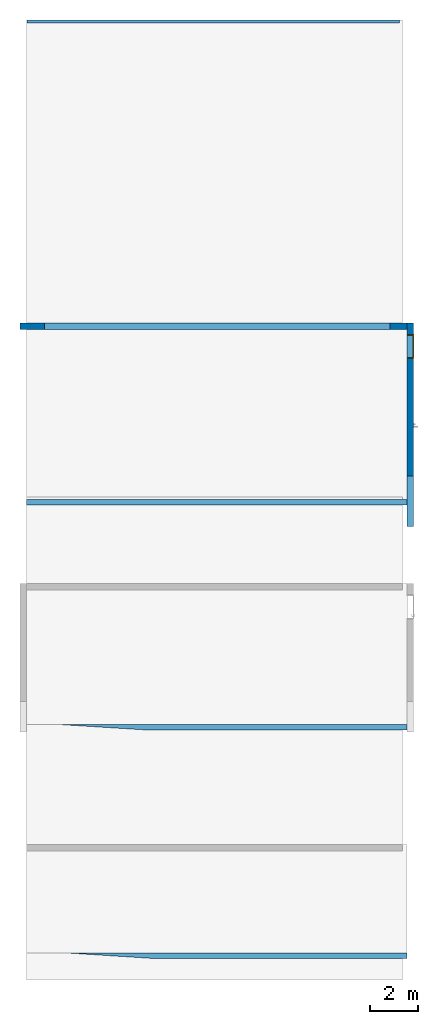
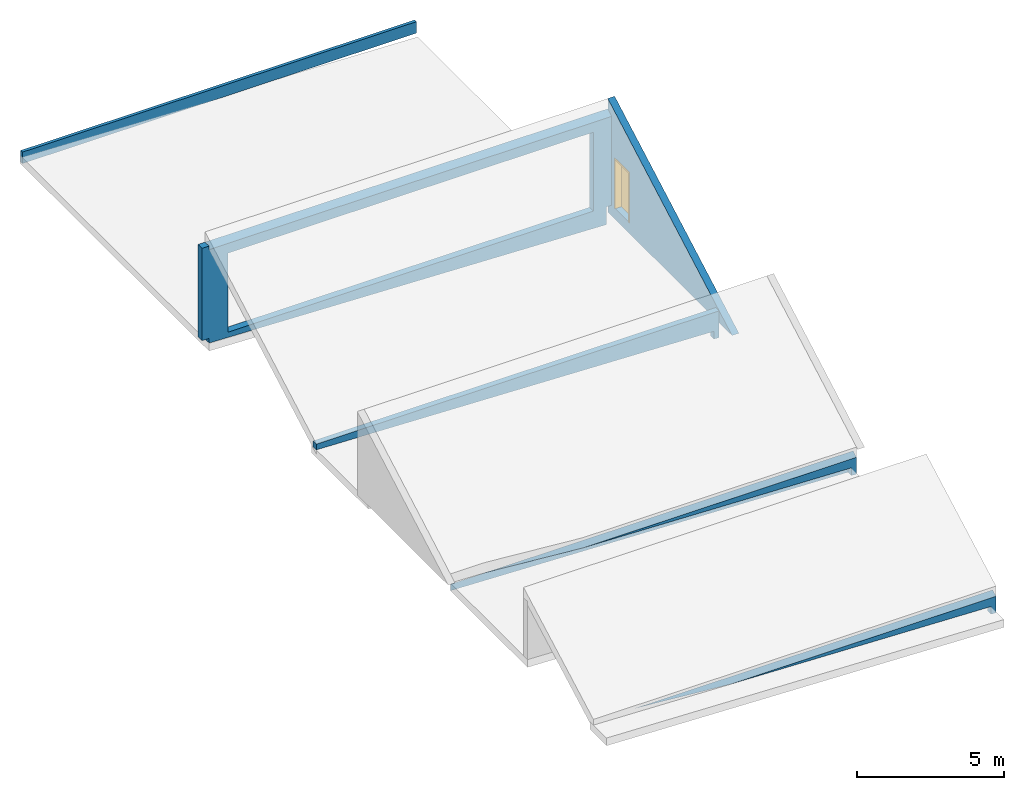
# One storey, part 2 of 2: 6 walls, 1 door, 4 openings.
"""IFC2X3 building model written with IfcOpenShell, lengths in centimetres."""

from ifc_helpers import new_model, entity, si_unit, converted_unit, derived_unit, direction, frame, frame_2d, origin, place, context, subcontext, project, spatial, polyline, rectangle, outline, extrude, clip, halfspace, bounded_halfspace, faceted_brep, source, transform, mapped, material, material_list, layer, layer_set, layer_usage, type_object, type_shapes, element, fill, save


model = new_model("IFC2X3")

# Units and contexts
model_context = context("Model", 3, precision=0.001, world=origin(), true_north=direction((6.12303176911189e-17, 1.0)))
body_context = subcontext(model_context, "Body", "Model", "MODEL_VIEW")
ifc_project = project(units=[si_unit("LENGTHUNIT", "METRE", prefix="CENTI"), si_unit("AREAUNIT", "SQUARE_METRE"), si_unit("VOLUMEUNIT", "CUBIC_METRE"), converted_unit("PLANEANGLEUNIT", "DEGREE", entity("IfcRatioMeasure", 0.0174532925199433), si_unit("PLANEANGLEUNIT", "RADIAN"), dimensions=[0, 0, 0, 0, 0, 0, 0]), si_unit("MASSUNIT", "GRAM", prefix="KILO"), si_unit("TIMEUNIT", "SECOND"), si_unit("FREQUENCYUNIT", "HERTZ"), si_unit("THERMODYNAMICTEMPERATUREUNIT", "DEGREE_CELSIUS"), derived_unit("THERMALTRANSMITTANCEUNIT", [(si_unit("MASSUNIT", "GRAM", prefix="KILO"), 1), (si_unit("THERMODYNAMICTEMPERATUREUNIT", "KELVIN"), -1), (si_unit("TIMEUNIT", "SECOND"), -3)]), derived_unit("VOLUMETRICFLOWRATEUNIT", [(si_unit("LENGTHUNIT", "METRE"), 3), (si_unit("TIMEUNIT", "SECOND"), -1)]), si_unit("ELECTRICCURRENTUNIT", "AMPERE"), si_unit("ELECTRICVOLTAGEUNIT", "VOLT"), si_unit("POWERUNIT", "WATT"), si_unit("FORCEUNIT", "NEWTON", prefix="KILO"), si_unit("ILLUMINANCEUNIT", "LUX"), si_unit("LUMINOUSFLUXUNIT", "LUMEN"), si_unit("LUMINOUSINTENSITYUNIT", "CANDELA"), derived_unit("USERDEFINED", [(si_unit("MASSUNIT", "GRAM", prefix="KILO"), -1), (si_unit("LENGTHUNIT", "METRE"), -2), (si_unit("TIMEUNIT", "SECOND"), 3), (si_unit("LUMINOUSFLUXUNIT", "LUMEN"), 1)]), derived_unit("LINEARVELOCITYUNIT", [(si_unit("LENGTHUNIT", "METRE"), 1), (si_unit("TIMEUNIT", "SECOND"), -1)]), si_unit("PRESSUREUNIT", "PASCAL"), derived_unit("USERDEFINED", [(si_unit("LENGTHUNIT", "METRE"), -2), (si_unit("MASSUNIT", "GRAM", prefix="KILO"), 1), (si_unit("TIMEUNIT", "SECOND"), -2)])], contexts=[model_context])

# Site, building, storey
site_placement = place(None, frame((8.62739174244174, -249.285249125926, 0.0)))
site = spatial("IfcSite", under=ifc_project, at=site_placement, Name="Default", CompositionType="ELEMENT")
building_placement = place(site_placement, origin())
building = spatial("IfcBuilding", under=site, at=building_placement, CompositionType="ELEMENT")
storey_placement = place(building_placement, frame((0.0, 0.0, 855.0)))
storey = spatial("IfcBuildingStorey", under=building, at=storey_placement, Name="Acrotère EXT2", CompositionType="ELEMENT", Elevation=855.0)

# Wall, opening, door
ifc_material_1 = material(Name="Tôle/Doublage(PROJET)")
ifc_layer_1 = layer(ifc_material_1, 4.0)
ifc_material_2 = material(Name="Laine minérale")
ifc_layer_2 = layer(ifc_material_2, 22.0)
ifc_layer_3 = layer(ifc_material_1, 1.0)
ifc_layer_set_1 = layer_set([ifc_layer_1, ifc_layer_2, ifc_layer_3], Name="Mur de base:MET PROJET 4 + ISO 23 + MET 1")
ifc_layer_usage_1 = layer_usage(ifc_layer_set_1, "AXIS2", "POSITIVE", -13.5)
wall_type_1 = type_object("IfcWallType", Name="Mur de base:MET PROJET 4 + ISO 23 + MET 1", PredefinedType="NOTDEFINED")
wall_1_placement = place(storey_placement, frame((3067.40482780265, 5463.01149388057, -45.0654807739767), z_axis=(0.0, 0.0, 1.0), x_axis=(0.0, 1.0, 0.0)))
wall_1 = element("IfcWallStandardCase", 1, at=wall_1_placement, inside=storey, type_object=wall_type_1, material=ifc_layer_usage_1, Name="Mur de base:MET PROJET 4 + ISO 23 + MET 1", ObjectType="Mur de base:MET PROJET 4 + ISO 23 + MET 1", context=body_context, shape_type="Clipping", body=[
    clip(extrude(rectangle(XDim=843.465927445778, YDim=26.9999999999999, at=frame_2d((421.732963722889, -1.78523862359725e-13), x_axis=(-1.0, 0.0))), origin(), (0.0, 0.0, 1.0), 470.065480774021), halfspace(frame((0.0, -13.5000000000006, 0.0), z_axis=(-0.486808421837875, 0.0, 0.8735087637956), x_axis=(0.0, 1.0, 0.0)), False)),
])
opening_1_placement = place(wall_1_placement, frame((796.712741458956, 13.5, 45.0654807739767)))
opening_1 = element("IfcOpeningElement", 2, at=opening_1_placement, cuts=wall_1, Name="Simple(R)_bois_mu:93 x 204 cm:1", ObjectType="Opening", context=body_context, shape_type="SweptSolid", body=[
    extrude(rectangle(XDim=207.499999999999, YDim=99.9999999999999, at=frame_2d((103.749999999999, 50.0), x_axis=(1.0, 0.0))), frame((0.0, 0.0, 0.0), z_axis=(0.0, -1.0, 0.0), x_axis=(0.0, 0.0, 1.0)), (0.0, 0.0, 1.0), 27.0),
])
ifc_material_3 = material(Name="Porte - Poignée")
ifc_material_4 = material(Name="Porte - Cadre")
ifc_material_5 = material(Name="Porte - Panneau")
ifc_material_list_1 = material_list([ifc_material_3, ifc_material_4, ifc_material_5])
ifc_material_list_2 = material_list([ifc_material_3, ifc_material_4, ifc_material_5])
door_style = type_object("IfcDoorStyle", Name="93 x 204 cm", ConstructionType="NOTDEFINED", OperationType="SINGLE_SWING_RIGHT", ParameterTakesPrecedence=False, Sizeable=False, material=ifc_material_list_2)
shared_shape = source(origin(), body_context, "Body", "Brep", [
    faceted_brep([(8.79747013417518, 3.69999999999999, 100.778044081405), (8.3999999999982, 3.69999999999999, 100.699999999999), (8.39999999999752, 3.69999999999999, 99.2999999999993), (8.79747013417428, 3.69999999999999, 99.2219559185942), (9.20252986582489, 3.69999999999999, 99.2219559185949), (9.60000000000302, 3.69999999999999, 99.3000000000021), (9.60000000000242, 3.69999999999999, 100.699999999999), (9.2025298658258, 3.69999999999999, 100.778044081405), (9.60000000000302, 5.94852045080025, 99.3000000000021), (9.60000000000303, 5.94852045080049, 100.699999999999), (9.20252986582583, 6.1131579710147, 100.778044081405), (10.5838906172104, 7.49451872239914, 100.778044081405), (10.4161093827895, 7.89957845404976, 100.778044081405), (8.79747013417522, 6.2809392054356, 100.778044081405), (19.5684749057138, 6.84673156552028, 100.778044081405), (19.8548953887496, 7.13315204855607, 100.778044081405), (19.0884689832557, 7.89957845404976, 100.778044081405), (18.9206877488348, 7.49451872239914, 100.778044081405), (8.39999999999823, 6.44557672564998, 100.699999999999), (8.3999999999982, 6.44557672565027, 99.2999999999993), (8.79747013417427, 6.28093920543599, 99.2219559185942), (10.4161093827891, 7.8995784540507, 99.2219559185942), (10.58389061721, 7.49451872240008, 99.2219559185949), (9.20252986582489, 6.11315797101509, 99.2219559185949), (19.8548953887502, 7.1331520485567, 99.2219559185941), (19.5684749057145, 6.84673156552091, 99.2219559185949), (18.9206877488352, 7.49451872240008, 99.2219559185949), (19.088468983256, 7.8995784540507, 99.2219559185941), (10.7485281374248, 7.09704858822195, 99.3000000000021), (10.748528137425, 7.09704858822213, 100.699999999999), (10.2514718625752, 8.29704858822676, 100.699999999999), (10.2514718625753, 8.29704858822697, 99.2999999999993), (14.7522904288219, 7.09704858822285, 99.3000000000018), (18.7560502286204, 7.09704858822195, 99.3000000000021), (18.7560502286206, 7.09704858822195, 100.699999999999), (14.7522891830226, 7.09704858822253, 100.699999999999), (14.7522891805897, 7.71249275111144, 100.787811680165), (19.25310650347, 8.29704858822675, 100.699999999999), (15.2600577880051, 8.29704858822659, 100.699999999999), (19.2531065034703, 8.29704858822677, 99.2999999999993), (14.2445206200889, 8.29704858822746, 99.2999999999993), (14.7522892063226, 7.71249274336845, 99.2121883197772), (19.2874210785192, 6.56567773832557, 99.3000000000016), (20.1359492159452, 7.41420587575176, 99.2999999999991), (20.135949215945, 7.4142058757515, 100.699999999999), (19.287421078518, 6.56567773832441, 100.699999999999)], [[[0, 1, 2, 3, 4, 5, 6, 7]], [[6, 5, 8, 9]], [[9, 10, 7, 6]], [[10, 11, 12, 13, 0, 7]], [[14, 15, 16, 17]], [[13, 18, 1, 0]], [[2, 1, 18, 19]], [[19, 20, 3, 2]], [[20, 21, 22, 23, 4, 3]], [[24, 25, 26, 27]], [[23, 8, 5, 4]], [[9, 8, 28, 29]], [[29, 11, 10, 9]], [[12, 30, 18, 13]], [[19, 18, 30, 31]], [[31, 21, 20, 19]], [[22, 28, 8, 23]], [[29, 28, 32, 33, 34, 35]], [[11, 35, 36]], [[16, 37, 38]], [[30, 12, 38]], [[38, 12, 36]], [[36, 35, 17]], [[17, 16, 36]], [[35, 11, 29]], [[34, 17, 35]], [[11, 36, 12]], [[38, 36, 16]], [[31, 30, 38, 37, 39, 40]], [[40, 41, 21]], [[41, 40, 27]], [[21, 31, 40]], [[39, 27, 40]], [[41, 32, 22]], [[22, 21, 41]], [[26, 32, 41]], [[28, 22, 32]], [[32, 26, 33]], [[26, 41, 27]], [[42, 25, 24, 43, 44, 15, 14, 45]], [[34, 33, 42, 45]], [[45, 14, 17, 34]], [[15, 44, 37, 16]], [[39, 37, 44, 43]], [[43, 24, 27, 39]], [[25, 42, 33, 26]]]),
    faceted_brep([(8.79747013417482, -1.30000000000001, 100.778044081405), (9.20252986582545, -1.30000000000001, 100.778044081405), (9.6000000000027, -1.30000000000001, 100.699999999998), (9.60000000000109, -1.30000000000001, 99.3000000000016), (9.20252986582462, -1.30000000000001, 99.2219559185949), (8.79747013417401, -1.30000000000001, 99.2219559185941), (8.39999999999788, -1.30000000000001, 99.2999999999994), (8.39999999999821, -1.30000000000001, 100.699999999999), (8.39999999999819, -4.06509507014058, 100.699999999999), (8.7974701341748, -3.90045754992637, 100.778044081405), (10.402358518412, -5.50534593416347, 100.778044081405), (10.5701397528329, -5.10028620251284, 100.778044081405), (9.20252986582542, -3.73267631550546, 100.778044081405), (19.852181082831, -4.73891952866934, 100.778044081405), (19.5657605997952, -4.4524990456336, 100.778044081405), (18.9179734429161, -5.10028620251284, 100.778044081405), (19.085754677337, -5.50534593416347, 100.778044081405), (9.60000000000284, -3.56803879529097, 100.699999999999), (9.6000000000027, -3.56803879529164, 99.3000000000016), (9.20252986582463, -3.7326763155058, 99.2219559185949), (10.5701397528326, -5.10028620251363, 99.2219559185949), (10.4023585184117, -5.50534593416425, 99.2219559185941), (8.79747013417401, -3.9004575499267, 99.2219559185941), (19.5657605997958, -4.45249904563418, 99.2219559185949), (19.8521810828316, -4.73891952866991, 99.2219559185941), (19.0857546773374, -5.50534593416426, 99.2219559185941), (18.9179734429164, -5.10028620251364, 99.2219559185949), (8.39999999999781, -4.06509507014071, 99.2999999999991), (10.2377209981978, -5.90281606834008, 100.699999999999), (10.7347772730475, -4.70281606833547, 100.699999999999), (10.7347772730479, -4.70281606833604, 99.3000000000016), (10.2377209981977, -5.90281606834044, 99.2999999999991), (14.2307697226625, -5.90281606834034, 100.699999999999), (14.7440566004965, -5.31828027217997, 100.787811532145), (19.2503921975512, -5.90281606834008, 100.699999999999), (14.7440565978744, -4.70281606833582, 100.699999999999), (18.7533359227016, -4.70281606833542, 100.699999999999), (18.7533359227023, -4.70281606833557, 99.3000000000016), (14.7440563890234, -4.70281606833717, 99.3000000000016), (14.744056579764, -5.31828027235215, 99.2121884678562), (19.2503921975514, -5.90281606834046, 99.2999999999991), (15.2573433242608, -5.90281606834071, 99.2999999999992), (19.2847067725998, -4.1714452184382, 100.699999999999), (20.1332349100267, -5.01997335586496, 100.699999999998), (20.1332349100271, -5.01997335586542, 99.2999999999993), (19.2847067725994, -4.17144521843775, 99.3000000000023)], [[[0, 1, 2, 3, 4, 5, 6, 7]], [[8, 9, 0, 7]], [[9, 10, 11, 12, 1, 0]], [[13, 14, 15, 16]], [[12, 17, 2, 1]], [[3, 2, 17, 18]], [[18, 19, 4, 3]], [[19, 20, 21, 22, 5, 4]], [[23, 24, 25, 26]], [[22, 27, 6, 5]], [[7, 6, 27, 8]], [[28, 10, 9, 8]], [[11, 29, 17, 12]], [[18, 17, 29, 30]], [[30, 20, 19, 18]], [[21, 31, 27, 22]], [[8, 27, 31, 28]], [[32, 33, 10]], [[33, 32, 16]], [[10, 28, 32]], [[34, 16, 32]], [[33, 35, 11]], [[11, 10, 33]], [[15, 35, 33]], [[29, 11, 35]], [[35, 15, 36]], [[15, 33, 16]], [[30, 29, 35, 36, 37, 38]], [[20, 38, 39]], [[25, 40, 41]], [[31, 21, 41]], [[41, 21, 39]], [[39, 38, 26]], [[26, 25, 39]], [[38, 20, 30]], [[37, 26, 38]], [[20, 39, 21]], [[41, 39, 25]], [[28, 31, 41, 40, 34, 32]], [[42, 14, 13, 43, 44, 24, 23, 45]], [[43, 13, 16, 34]], [[14, 42, 36, 15]], [[37, 36, 42, 45]], [[45, 23, 26, 37]], [[24, 44, 40, 25]], [[34, 40, 44, 43]]]),
    faceted_brep([(10.03527618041, 3.19999999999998, 86.6003983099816), (11.0, 3.19999999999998, 87.0), (11.0, 3.19999999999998, 108.0), (10.03527618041, 3.19999999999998, 108.399601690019), (9.0, 3.19999999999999, 108.535898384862), (7.96472381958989, 3.19999999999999, 108.399601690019), (7.0, 3.19999999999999, 108.0), (7.0, 3.19999999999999, 87.0), (7.96472381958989, 3.19999999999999, 86.6003983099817), (9.0, 3.19999999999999, 86.4641016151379), (10.03527618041, 3.69999999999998, 108.399601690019), (11.0, 3.69999999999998, 108.0), (11.0, 3.69999999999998, 87.0), (10.03527618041, 3.69999999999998, 86.6003983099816), (9.0, 3.69999999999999, 86.4641016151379), (7.96472381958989, 3.69999999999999, 86.6003983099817), (7.0, 3.69999999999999, 87.0), (7.0, 3.69999999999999, 108.0), (7.96472381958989, 3.69999999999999, 108.399601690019), (9.0, 3.69999999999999, 108.535898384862)], [[[0, 1, 2, 3, 4, 5, 6, 7, 8, 9]], [[10, 11, 12, 13, 14, 15, 16, 17, 18, 19]], [[11, 10, 3, 2]], [[3, 10, 19, 4]], [[19, 18, 5, 4]], [[18, 17, 6, 5]], [[7, 6, 17, 16]], [[16, 15, 8, 7]], [[8, 15, 14, 9]], [[14, 13, 0, 9]], [[13, 12, 1, 0]], [[2, 1, 12, 11]]]),
    faceted_brep([(10.03527618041, -1.30000000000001, 86.6003983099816), (11.0, -1.30000000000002, 87.0), (11.0, -1.30000000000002, 108.0), (10.03527618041, -1.30000000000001, 108.399601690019), (9.0, -1.30000000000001, 108.535898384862), (7.9647238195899, -1.30000000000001, 108.399601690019), (7.0, -1.3, 108.0), (7.0, -1.3, 87.0), (7.96472381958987, -1.30000000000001, 86.6003983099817), (9.0, -1.30000000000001, 86.4641016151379), (10.03527618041, -0.800000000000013, 108.399601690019), (11.0, -0.800000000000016, 108.0), (11.0, -0.800000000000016, 87.0), (10.03527618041, -0.800000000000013, 86.6003983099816), (9.0, -0.800000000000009, 86.4641016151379), (7.96472381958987, -0.800000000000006, 86.6003983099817), (7.0, -0.800000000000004, 87.0), (7.0, -0.800000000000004, 108.0), (7.9647238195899, -0.800000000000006, 108.399601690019), (9.0, -0.800000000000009, 108.535898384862)], [[[0, 1, 2, 3, 4, 5, 6, 7, 8, 9]], [[10, 11, 12, 13, 14, 15, 16, 17, 18, 19]], [[16, 15, 8, 7]], [[8, 15, 14, 9]], [[14, 13, 0, 9]], [[13, 12, 1, 0]], [[2, 1, 12, 11]], [[11, 10, 3, 2]], [[3, 10, 19, 4]], [[19, 18, 5, 4]], [[18, 17, 6, 5]], [[7, 6, 17, 16]]]),
    faceted_brep([(0.0, 0.0, 0.0), (0.0, 27.0, 0.0), (-1.0, 27.0, 0.0), (-1.0, 27.8000000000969, 0.0), (4.49999999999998, 27.8000000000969, 0.0), (4.49999999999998, 3.20000000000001, 0.0), (3.49999999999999, 3.20000000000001, 0.0), (3.49999999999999, -0.799999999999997, 0.0), (-1.0, -0.799999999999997, 0.0), (-1.0, 0.0, 0.0), (0.0, 0.0, 207.499999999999), (0.0, 27.0, 207.499999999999), (100.0, 27.0, 207.499999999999), (100.0, 27.0, 0.0), (101.0, 27.0, 0.0), (101.0, 27.0, 208.499999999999), (-1.0, 27.0, 208.499999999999), (-1.0, 27.8000000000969, 208.499999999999), (101.0, 27.8000000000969, 208.499999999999), (101.0, 27.8000000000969, 0.0), (95.5, 27.8000000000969, 0.0), (95.5, 27.8000000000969, 203.0), (4.49999999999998, 27.8000000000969, 203.0), (4.49999999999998, 3.20000000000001, 203.0), (95.5, 3.20000000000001, 203.0), (95.5, 3.20000000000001, 0.0), (96.5, 3.20000000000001, 0.0), (96.5, 3.20000000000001, 204.0), (3.49999999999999, 3.20000000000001, 204.0), (3.49999999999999, -0.799999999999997, 204.0), (96.5, -0.799999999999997, 204.0), (96.5, -0.799999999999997, 0.0), (101.0, -0.799999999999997, 0.0), (101.0, -0.799999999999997, 208.499999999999), (-1.0, -0.799999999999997, 208.499999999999), (-1.0, 0.0, 208.499999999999), (101.0, 0.0, 208.499999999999), (101.0, 0.0, 0.0), (100.0, 0.0, 0.0), (100.0, 0.0, 207.499999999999)], [[[0, 1, 2, 3, 4, 5, 6, 7, 8, 9]], [[1, 0, 10, 11]], [[2, 1, 11, 12, 13, 14, 15, 16]], [[3, 2, 16, 17]], [[4, 3, 17, 18, 19, 20, 21, 22]], [[5, 4, 22, 23]], [[6, 5, 23, 24, 25, 26, 27, 28]], [[7, 6, 28, 29]], [[8, 7, 29, 30, 31, 32, 33, 34]], [[9, 8, 34, 35]], [[0, 9, 35, 36, 37, 38, 39, 10]], [[12, 39, 38, 13]], [[38, 37, 32, 31, 26, 25, 20, 19, 14, 13]], [[18, 15, 14, 19]], [[24, 21, 20, 25]], [[30, 27, 26, 31]], [[36, 33, 32, 37]], [[11, 10, 39, 12]], [[17, 16, 15, 18]], [[23, 22, 21, 24]], [[29, 28, 27, 30]], [[35, 34, 33, 36]]]),
    faceted_brep([(3.49999999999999, -0.799999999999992, 204.0), (3.49999999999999, -0.799999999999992, 0.0), (96.5, -0.799999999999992, 0.0), (96.5, -0.799999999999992, 204.0), (3.49999999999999, 3.20000000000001, 204.0), (96.5, 3.20000000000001, 204.0), (96.5, 3.20000000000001, 0.0), (3.49999999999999, 3.20000000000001, 0.0)], [[[0, 1, 2, 3]], [[4, 5, 6, 7]], [[1, 0, 4, 7]], [[2, 1, 7, 6]], [[3, 2, 6, 5]], [[0, 3, 5, 4]]]),
])
type_shapes(door_style, [shared_shape])
door_placement = place(opening_1_placement, frame((-100.0, -27.0, 0.0)))
door = element("IfcDoor", 3, at=door_placement, inside=storey, type_object=door_style, material=ifc_material_list_1, Name="Simple(R)_bois_mu:93 x 204 cm", ObjectType="93 x 204 cm", OverallHeight=207.499999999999, OverallWidth=99.9999999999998, context=body_context, shape_type="MappedRepresentation", body=[
    mapped(shared_shape, transform((0.0, 0.0, 0.0), scale=1.0)),
])
fill(opening_1, door)

# Wall, openings
ifc_layer_usage_2 = layer_usage(ifc_layer_set_1, "AXIS2", "NEGATIVE", 13.5)
wall_2_placement = place(storey_placement, frame((1449.9048277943, 6292.97742132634, -73.7177502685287)))
wall_2 = element("IfcWallStandardCase", 4, at=wall_2_placement, inside=storey, type_object=wall_type_1, material=ifc_layer_usage_2, Name="Mur de base:MET PROJET 4 + ISO 23 + MET 1", ObjectType="Mur de base:MET PROJET 4 + ISO 23 + MET 1", context=body_context, shape_type="Clipping", body=[
    clip(clip(clip(clip(clip(clip(clip(clip(extrude(rectangle(XDim=1631.00000000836, YDim=27.0000000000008, at=frame_2d((815.500000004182, 1.02140518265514e-13), x_axis=(-1.0, 0.0))), origin(), (0.0, 0.0, 1.0), 456.35984668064), bounded_halfspace(frame((1584.0, -12.4999999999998, 73.7177502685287)), True, frame((1584.0, -12.4999999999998, 73.7177502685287)), polyline([(0.0, 0.0), (47.0, 0.0), (47.0, 26.0), (0.0, 26.0), (0.0, 0.0)]))), bounded_halfspace(frame((0.0, -12.4999999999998, 73.7243096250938)), True, frame((0.0, -12.4999999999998, 73.7243096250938)), polyline([(0.0, 0.0), (27.0, 0.0), (27.0, 26.0), (0.0, 26.0), (0.0, 0.0)]))), bounded_halfspace(frame((1631.0, -13.4999999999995, 73.7177502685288), z_axis=(0.0, 0.0, -1.0), x_axis=(0.0, 1.0, 0.0)), False, frame((1631.0, -13.4999999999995, 73.7177502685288)), polyline([(0.0, 0.0), (0.0, 1.0), (-47.0, 1.0), (-47.0, 0.0), (0.0, 0.0)]))), bounded_halfspace(frame((27.0, -13.4999999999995, 73.7243096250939), z_axis=(0.0, 0.0, -1.0), x_axis=(0.0, 1.0, 0.0)), False, frame((27.0, -13.4999999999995, 73.7243096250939)), polyline([(0.0, 0.0), (0.0, 1.0), (-27.0, 1.0), (-27.0, 0.0), (0.0, 0.0)]))), bounded_halfspace(frame((26.9951722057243, 13.5000000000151, 456.35984668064), z_axis=(0.0, 0.486808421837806, -0.873508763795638), x_axis=(1.0, 0.0, 0.0)), True, frame((26.9951722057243, 13.5000000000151, 456.35984668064), z_axis=(0.0, 0.486808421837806, -0.873508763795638), x_axis=(1.0, 0.0, 0.0)), polyline([(0.0, 0.0), (1578.00482780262, 0.0), (1578.00482780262, 30.9098215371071), (0.0, 30.9098215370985), (0.0, 0.0)]))), halfspace(frame((1584.0, -13.4999999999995, 0.0), z_axis=(-0.0351219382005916, 0.0, -0.999383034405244), x_axis=(0.0, 1.0, 0.0)), False)), halfspace(frame((27.0, 0.0, 54.718617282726), z_axis=(-0.575608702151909, 0.0, -0.817725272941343), x_axis=(0.0, -1.0, 0.0)), False)), halfspace(frame((1631.0, 0.0, 73.7177502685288), z_axis=(0.894594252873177, 0.0, -0.44687931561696), x_axis=(0.0, -1.0, 0.0)), False)),
])
opening_2_placement = place(wall_2_placement, origin())
element("IfcOpeningElement", 5, at=opening_2_placement, cuts=wall_2, Name="Mur de base:MET PROJET 4 + ISO 23 + MET 1", ObjectType="Opening", context=body_context, shape_type="SweptSolid", body=[
    extrude(rectangle(XDim=326.983987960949, YDim=1432.00000000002, at=frame_2d((-5.6843418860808e-14, 1.13686837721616e-13), x_axis=(1.0, 0.0))), frame((817.0, -28.7400000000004, 237.209744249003), z_axis=(0.0, 1.0, 0.0), x_axis=(0.0, 0.0, 1.0)), (0.0, 0.0, 1.0), 57.4799999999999),
])
opening_3_placement = place(wall_2_placement, origin())
element("IfcOpeningElement", 6, at=opening_3_placement, cuts=wall_2, Name="Mur de base:MET PROJET 4 + ISO 23 + MET 1", ObjectType="Opening", context=body_context, shape_type="SweptSolid", body=[
    extrude(outline(polyline([(-24.6666666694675, -24.6897288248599), (12.3333333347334, -24.6897288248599), (12.3333333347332, 49.3794576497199), (-24.6666666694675, -24.6897288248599)])), frame((1606.3333333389, 13.5000000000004, 49.0280214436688), z_axis=(0.0, -1.0, 0.0), x_axis=(-1.0, 0.0, 0.0)), (0.0, 0.0, 1.0), 27.0),
])
opening_4_placement = place(wall_2_placement, origin())
element("IfcOpeningElement", 7, at=opening_4_placement, cuts=wall_2, Name="Mur de base:MET PROJET 4 + ISO 23 + MET 1", ObjectType="Opening", context=body_context, shape_type="SweptSolid", body=[
    extrude(outline(polyline([(-12.6704615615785, -9.0), (6.3352307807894, -9.0), (6.33523078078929, 18.0), (-12.6704615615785, -9.0)])), frame((18.0, 13.4999999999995, 67.3890788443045), z_axis=(0.0, -1.0, 0.0), x_axis=(0.0, 0.0, 1.0)), (0.0, 0.0, 1.0), 27.0),
])

# Walls
wall_type_2 = type_object("IfcWallType", Name="Mur de base:ISO 23", PredefinedType="NOTDEFINED")
wall_3_placement = place(storey_placement, frame((1476.90000000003, 5563.15947909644, -107.089558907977)))
element("IfcWall", 8, at=wall_3_placement, inside=storey, type_object=wall_type_2, material=ifc_material_2, Name="Mur de base:ISO 23", ObjectType="Mur de base:ISO 23", context=body_context, shape_type="Brep", body=[
    faceted_brep([(1577.00482780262, -11.5, 0.0), (1577.00482780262, -11.5, 110.491940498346), (0.0, -11.5, 110.491940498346), (0.0, -11.5, 87.0897274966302), (1557.00482780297, -11.5, 32.7179208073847), (1557.00482780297, -11.5, 0.698415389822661), (1577.00482780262, 11.5, 110.491940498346), (1577.00482780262, 11.5, 0.0), (1557.00482780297, 11.5, 0.698415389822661), (1557.00482780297, 11.5, 32.7179208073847), (0.0, 11.5, 87.0897274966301), (0.0, 11.5, 110.491940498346)], [[[0, 1, 2, 3, 4, 5]], [[6, 7, 8, 9, 10, 11]], [[1, 0, 7, 6]], [[2, 1, 6, 11]], [[2, 11, 10, 3]], [[7, 0, 5, 8]], [[9, 4, 3, 10]], [[4, 9, 8, 5]]]),
])
wall_4_placement = place(storey_placement, frame((1476.90000000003, 4631.01447909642, -107.089558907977)))
element("IfcWall", 9, at=wall_4_placement, inside=storey, type_object=wall_type_2, material=ifc_material_2, Name="Mur de base:ISO 23", ObjectType="Mur de base:ISO 23", context=body_context, shape_type="Brep", body=[
    faceted_brep([(1577.00482780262, -11.5, 0.0), (1577.00482780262, -11.5, 69.4675431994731), (504.633332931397, -11.5, 69.4675431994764), (1557.00482780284, -11.5, 32.7179208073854), (1557.00482780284, -11.5, 0.698415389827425), (1577.00482780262, 11.5, 0.0), (0.0, 11.5, 55.070222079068), (0.0, 11.5, 82.3385894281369), (1577.00482780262, 11.5, 82.3385894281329), (0.0, 11.4618070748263, 55.070222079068), (0.0, 11.4618070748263, 82.3172162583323), (1557.00482780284, 11.4618070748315, 0.698415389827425), (136.666840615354, 11.4618070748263, 82.3172162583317), (1557.00482780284, 11.4618070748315, 32.7179208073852)], [[[0, 1, 2, 3, 4]], [[5, 6, 7, 8]], [[0, 5, 8, 1]], [[7, 6, 9, 10]], [[6, 5, 0, 4, 11, 9]], [[12, 13, 3, 2]], [[13, 11, 4, 3]], [[11, 13, 12, 10, 9]], [[8, 7, 10, 12, 2, 1]]]),
])
wall_5_placement = place(storey_placement, frame((1651.12249994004, 3683.9802080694, -107.089558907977)))
element("IfcWall", 10, at=wall_5_placement, inside=storey, type_object=wall_type_2, material=ifc_material_2, Name="Mur de base:ISO 23", ObjectType="Mur de base:ISO 23", context=body_context, shape_type="Brep", body=[
    faceted_brep([(1402.78232786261, -11.5000000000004, 0.0), (1402.78232786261, -11.5000000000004, 68.4141533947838), (360.575970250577, -11.5000000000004, 68.414153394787), (1382.78232786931, -11.5000000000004, 32.7179208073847), (1382.78232786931, -11.5000000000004, 0.698415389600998), (1402.78232786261, 11.4999999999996, 81.0057437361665), (1402.78232786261, 11.4999999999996, 0.0), (1382.78232786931, 11.4999999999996, 0.698415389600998), (1382.78232786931, 11.4999999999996, 32.7179208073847), (0.0, 11.5, 81.0057437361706)], [[[0, 1, 2, 3, 4]], [[5, 6, 7, 8, 9]], [[0, 6, 5, 1]], [[6, 0, 4, 7]], [[8, 3, 2, 9]], [[3, 8, 7, 4]], [[1, 5, 9, 2]]]),
])
ifc_material_6 = material(Name="Maçonnerie")
ifc_layer_4 = layer(ifc_material_6, 1.0)
ifc_layer_5 = layer(ifc_material_2, 9.0)
ifc_material_7 = material(Name="Plâtre")
ifc_layer_6 = layer(ifc_material_7, 2.0)
ifc_layer_set_2 = layer_set([ifc_layer_4, ifc_layer_5, ifc_layer_6], Name="Mur de base:PLA 2 +  + ISO 9 + ETAN 1")
ifc_layer_usage_3 = layer_usage(ifc_layer_set_2, "AXIS2", "POSITIVE", -6.0)
wall_type_3 = type_object("IfcWallType", Name="Mur de base:PLA 2 +  + ISO 9 + ETAN 1", PredefinedType="STANDARD", material=ifc_layer_set_2)
wall_6_placement = place(storey_placement, frame((3021.90482781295, 7555.97694586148, -47.4230960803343), z_axis=(0.0, 0.0, 1.0), x_axis=(-1.0, 0.0, 0.0)))
element("IfcWallStandardCase", 11, at=wall_6_placement, inside=storey, type_object=wall_type_3, material=ifc_layer_usage_3, Name="Mur de base:PLA 2 +  + ISO 9 + ETAN 1", ObjectType="Mur de base:PLA 2 +  + ISO 9 + ETAN 1", context=body_context, shape_type="SweptSolid", body=[
    extrude(rectangle(XDim=1542.42465592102, YDim=12.0000000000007, at=frame_2d((771.212327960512, 0.0), x_axis=(-1.0, 0.0))), origin(), (0.0, 0.0, 1.0), 47.4230960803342),
])

save(model, "model.ifc")
